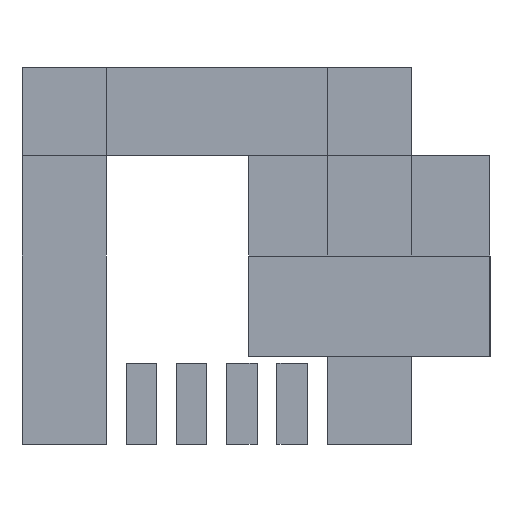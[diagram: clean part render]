
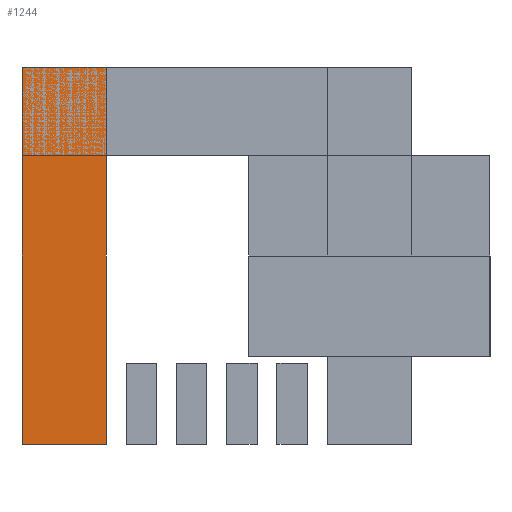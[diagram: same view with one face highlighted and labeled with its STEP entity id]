
A CAD part, left-side view. The second image highlights one B-rep face of the part: STEP entity #1244.
In plain terms, the highlighted planar face has unit normal (-1, 0, 0).
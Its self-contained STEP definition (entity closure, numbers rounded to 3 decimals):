
#1244 = ADVANCED_FACE('',(#1245),#1259,.F.);
#1245 = FACE_BOUND('',#1246,.F.);
#1246 = EDGE_LOOP('',(#1247,#1282,#1310,#1338));
#1247 = ORIENTED_EDGE('',*,*,#1248,.F.);
#1248 = EDGE_CURVE('',#1249,#1251,#1253,.T.);
#1249 = VERTEX_POINT('',#1250);
#1250 = CARTESIAN_POINT('',(0.,8.79,50.));
#1251 = VERTEX_POINT('',#1252);
#1252 = CARTESIAN_POINT('',(0.,8.79,80.));
#1253 = SURFACE_CURVE('',#1254,(#1258,#1270),.PCURVE_S1.);
#1254 = LINE('',#1255,#1256);
#1255 = CARTESIAN_POINT('',(0.,8.79,50.));
#1256 = VECTOR('',#1257,1.);
#1257 = DIRECTION('',(0.,0.,1.));
#1258 = PCURVE('',#1259,#1264);
#1259 = PLANE('',#1260);
#1260 = AXIS2_PLACEMENT_3D('',#1261,#1262,#1263);
#1261 = CARTESIAN_POINT('',(0.,8.79,50.));
#1262 = DIRECTION('',(1.,0.,0.));
#1263 = DIRECTION('',(0.,0.,1.));
#1264 = DEFINITIONAL_REPRESENTATION('',(#1265),#1269);
#1265 = LINE('',#1266,#1267);
#1266 = CARTESIAN_POINT('',(0.,0.));
#1267 = VECTOR('',#1268,1.);
#1268 = DIRECTION('',(1.,0.));
#1269 = ( GEOMETRIC_REPRESENTATION_CONTEXT(2) 
PARAMETRIC_REPRESENTATION_CONTEXT() REPRESENTATION_CONTEXT('2D SPACE',''
  ) );
#1270 = PCURVE('',#1271,#1276);
#1271 = PLANE('',#1272);
#1272 = AXIS2_PLACEMENT_3D('',#1273,#1274,#1275);
#1273 = CARTESIAN_POINT('',(0.,8.79,50.));
#1274 = DIRECTION('',(0.,1.,0.));
#1275 = DIRECTION('',(0.,0.,1.));
#1276 = DEFINITIONAL_REPRESENTATION('',(#1277),#1281);
#1277 = LINE('',#1278,#1279);
#1278 = CARTESIAN_POINT('',(0.,0.));
#1279 = VECTOR('',#1280,1.);
#1280 = DIRECTION('',(1.,0.));
#1281 = ( GEOMETRIC_REPRESENTATION_CONTEXT(2) 
PARAMETRIC_REPRESENTATION_CONTEXT() REPRESENTATION_CONTEXT('2D SPACE',''
  ) );
#1282 = ORIENTED_EDGE('',*,*,#1283,.T.);
#1283 = EDGE_CURVE('',#1249,#1284,#1286,.T.);
#1284 = VERTEX_POINT('',#1285);
#1285 = CARTESIAN_POINT('',(0.,15.5,50.));
#1286 = SURFACE_CURVE('',#1287,(#1291,#1298),.PCURVE_S1.);
#1287 = LINE('',#1288,#1289);
#1288 = CARTESIAN_POINT('',(0.,8.79,50.));
#1289 = VECTOR('',#1290,1.);
#1290 = DIRECTION('',(0.,1.,0.));
#1291 = PCURVE('',#1259,#1292);
#1292 = DEFINITIONAL_REPRESENTATION('',(#1293),#1297);
#1293 = LINE('',#1294,#1295);
#1294 = CARTESIAN_POINT('',(0.,0.));
#1295 = VECTOR('',#1296,1.);
#1296 = DIRECTION('',(0.,-1.));
#1297 = ( GEOMETRIC_REPRESENTATION_CONTEXT(2) 
PARAMETRIC_REPRESENTATION_CONTEXT() REPRESENTATION_CONTEXT('2D SPACE',''
  ) );
#1298 = PCURVE('',#1299,#1304);
#1299 = PLANE('',#1300);
#1300 = AXIS2_PLACEMENT_3D('',#1301,#1302,#1303);
#1301 = CARTESIAN_POINT('',(0.,8.79,50.));
#1302 = DIRECTION('',(0.,0.,1.));
#1303 = DIRECTION('',(1.,0.,0.));
#1304 = DEFINITIONAL_REPRESENTATION('',(#1305),#1309);
#1305 = LINE('',#1306,#1307);
#1306 = CARTESIAN_POINT('',(0.,0.));
#1307 = VECTOR('',#1308,1.);
#1308 = DIRECTION('',(0.,1.));
#1309 = ( GEOMETRIC_REPRESENTATION_CONTEXT(2) 
PARAMETRIC_REPRESENTATION_CONTEXT() REPRESENTATION_CONTEXT('2D SPACE',''
  ) );
#1310 = ORIENTED_EDGE('',*,*,#1311,.T.);
#1311 = EDGE_CURVE('',#1284,#1312,#1314,.T.);
#1312 = VERTEX_POINT('',#1313);
#1313 = CARTESIAN_POINT('',(0.,15.5,80.));
#1314 = SURFACE_CURVE('',#1315,(#1319,#1326),.PCURVE_S1.);
#1315 = LINE('',#1316,#1317);
#1316 = CARTESIAN_POINT('',(0.,15.5,50.));
#1317 = VECTOR('',#1318,1.);
#1318 = DIRECTION('',(0.,0.,1.));
#1319 = PCURVE('',#1259,#1320);
#1320 = DEFINITIONAL_REPRESENTATION('',(#1321),#1325);
#1321 = LINE('',#1322,#1323);
#1322 = CARTESIAN_POINT('',(0.,-6.71));
#1323 = VECTOR('',#1324,1.);
#1324 = DIRECTION('',(1.,0.));
#1325 = ( GEOMETRIC_REPRESENTATION_CONTEXT(2) 
PARAMETRIC_REPRESENTATION_CONTEXT() REPRESENTATION_CONTEXT('2D SPACE',''
  ) );
#1326 = PCURVE('',#1327,#1332);
#1327 = PLANE('',#1328);
#1328 = AXIS2_PLACEMENT_3D('',#1329,#1330,#1331);
#1329 = CARTESIAN_POINT('',(0.,15.5,50.));
#1330 = DIRECTION('',(0.,1.,0.));
#1331 = DIRECTION('',(0.,0.,1.));
#1332 = DEFINITIONAL_REPRESENTATION('',(#1333),#1337);
#1333 = LINE('',#1334,#1335);
#1334 = CARTESIAN_POINT('',(0.,0.));
#1335 = VECTOR('',#1336,1.);
#1336 = DIRECTION('',(1.,0.));
#1337 = ( GEOMETRIC_REPRESENTATION_CONTEXT(2) 
PARAMETRIC_REPRESENTATION_CONTEXT() REPRESENTATION_CONTEXT('2D SPACE',''
  ) );
#1338 = ORIENTED_EDGE('',*,*,#1339,.F.);
#1339 = EDGE_CURVE('',#1251,#1312,#1340,.T.);
#1340 = SURFACE_CURVE('',#1341,(#1345,#1352),.PCURVE_S1.);
#1341 = LINE('',#1342,#1343);
#1342 = CARTESIAN_POINT('',(0.,8.79,80.));
#1343 = VECTOR('',#1344,1.);
#1344 = DIRECTION('',(0.,1.,0.));
#1345 = PCURVE('',#1259,#1346);
#1346 = DEFINITIONAL_REPRESENTATION('',(#1347),#1351);
#1347 = LINE('',#1348,#1349);
#1348 = CARTESIAN_POINT('',(30.,0.));
#1349 = VECTOR('',#1350,1.);
#1350 = DIRECTION('',(0.,-1.));
#1351 = ( GEOMETRIC_REPRESENTATION_CONTEXT(2) 
PARAMETRIC_REPRESENTATION_CONTEXT() REPRESENTATION_CONTEXT('2D SPACE',''
  ) );
#1352 = PCURVE('',#1353,#1358);
#1353 = PLANE('',#1354);
#1354 = AXIS2_PLACEMENT_3D('',#1355,#1356,#1357);
#1355 = CARTESIAN_POINT('',(0.,8.79,80.));
#1356 = DIRECTION('',(0.,0.,1.));
#1357 = DIRECTION('',(1.,0.,0.));
#1358 = DEFINITIONAL_REPRESENTATION('',(#1359),#1363);
#1359 = LINE('',#1360,#1361);
#1360 = CARTESIAN_POINT('',(0.,0.));
#1361 = VECTOR('',#1362,1.);
#1362 = DIRECTION('',(0.,1.));
#1363 = ( GEOMETRIC_REPRESENTATION_CONTEXT(2) 
PARAMETRIC_REPRESENTATION_CONTEXT() REPRESENTATION_CONTEXT('2D SPACE',''
  ) );
